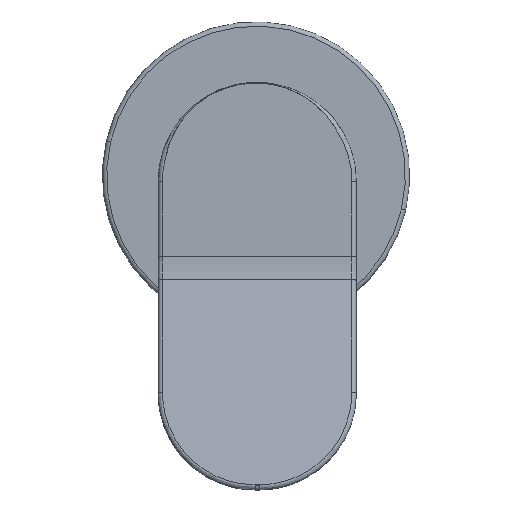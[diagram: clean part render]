
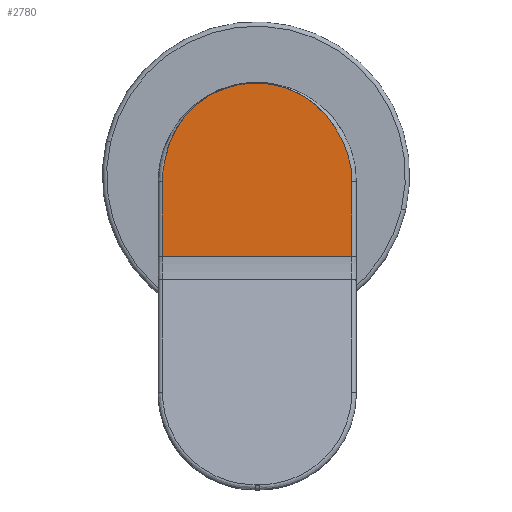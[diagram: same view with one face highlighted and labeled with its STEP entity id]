
A CAD part, top view. The second image highlights one B-rep face of the part: STEP entity #2780.
In plain terms, the highlighted planar face has unit normal (0, 0, 1).
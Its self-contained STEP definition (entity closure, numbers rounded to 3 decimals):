
#28 = VERTEX_POINT ( 'NONE', #1815 ) ;
#188 = ORIENTED_EDGE ( 'NONE', *, *, #4149, .F. ) ;
#290 = DIRECTION ( 'NONE',  ( -1., 0., 0. ) ) ;
#366 = EDGE_LOOP ( 'NONE', ( #188, #372, #3940, #659, #1661, #523, #2286 ) ) ;
#372 = ORIENTED_EDGE ( 'NONE', *, *, #2707, .F. ) ;
#413 = AXIS2_PLACEMENT_3D ( 'NONE', #451, #3560, #771 ) ;
#415 = EDGE_CURVE ( 'NONE', #3729, #28, #2094, .T. ) ;
#451 = CARTESIAN_POINT ( 'NONE',  ( 0.275, -1.445, 85.997 ) ) ;
#523 = ORIENTED_EDGE ( 'NONE', *, *, #2887, .F. ) ;
#550 = VERTEX_POINT ( 'NONE', #3357 ) ;
#622 = VECTOR ( 'NONE', #290, 1000. ) ;
#637 = CARTESIAN_POINT ( 'NONE',  ( 21.775, -1.445, 85.997 ) ) ;
#659 = ORIENTED_EDGE ( 'NONE', *, *, #993, .F. ) ;
#722 = DIRECTION ( 'NONE',  ( 0., 1., 0. ) ) ;
#771 = DIRECTION ( 'NONE',  ( 1., 0., 0. ) ) ;
#931 = CARTESIAN_POINT ( 'NONE',  ( -20.673, 3.396, 85.997 ) ) ;
#955 =( BOUNDED_CURVE ( )  B_SPLINE_CURVE ( 3, ( #1611, #2976, #1636, #931 ),
 .UNSPECIFIED., .F., .T. ) 
 B_SPLINE_CURVE_WITH_KNOTS ( ( 4, 4 ),
 ( 0., 0.072 ),
 .UNSPECIFIED. ) 
 CURVE ( )  GEOMETRIC_REPRESENTATION_ITEM ( )  RATIONAL_B_SPLINE_CURVE ( ( 1., 0.996, 0.996, 1. ) ) 
 REPRESENTATION_ITEM ( '' )  );
#993 = EDGE_CURVE ( 'NONE', #2832, #1434, #1444, .T. ) ;
#1206 = CARTESIAN_POINT ( 'NONE',  ( 21.775, -1.445, 85.997 ) ) ;
#1211 = EDGE_CURVE ( 'NONE', #1434, #550, #955, .T. ) ;
#1274 = CARTESIAN_POINT ( 'NONE',  ( 17.98, 10.752, 85.997 ) ) ;
#1431 = PLANE ( 'NONE',  #413 ) ;
#1434 = VERTEX_POINT ( 'NONE', #2039 ) ;
#1444 = LINE ( 'NONE', #3452, #4043 ) ;
#1497 = CARTESIAN_POINT ( 'NONE',  ( -20.673, 3.398, 85.997 ) ) ;
#1611 = CARTESIAN_POINT ( 'NONE',  ( -21.225, -1.445, 85.997 ) ) ;
#1627 = CARTESIAN_POINT ( 'NONE',  ( 0., 0., 85.997 ) ) ;
#1636 = CARTESIAN_POINT ( 'NONE',  ( -21.04, 1.807, 85.997 ) ) ;
#1661 = ORIENTED_EDGE ( 'NONE', *, *, #2087, .F. ) ;
#1747 = CARTESIAN_POINT ( 'NONE',  ( -20.673, 3.396, 85.997 ) ) ;
#1815 = CARTESIAN_POINT ( 'NONE',  ( 21.775, -1.445, 85.997 ) ) ;
#1872 = CARTESIAN_POINT ( 'NONE',  ( -21.225, -18.413, 85.997 ) ) ;
#1948 = CARTESIAN_POINT ( 'NONE',  ( 17.98, 10.752, 85.997 ) ) ;
#2039 = CARTESIAN_POINT ( 'NONE',  ( -21.225, -1.445, 85.997 ) ) ;
#2087 = EDGE_CURVE ( 'NONE', #3358, #2832, #4021, .T. ) ;
#2094 =( BOUNDED_CURVE ( )  B_SPLINE_CURVE ( 3, ( #1274, #4231, #4206, #1206 ),
 .UNSPECIFIED., .F., .T. ) 
 B_SPLINE_CURVE_WITH_KNOTS ( ( 4, 4 ),
 ( 0.808, 1. ),
 .UNSPECIFIED. ) 
 CURVE ( )  GEOMETRIC_REPRESENTATION_ITEM ( )  RATIONAL_B_SPLINE_CURVE ( ( 1., 0.97, 0.97, 1. ) ) 
 REPRESENTATION_ITEM ( '' )  );
#2142 = FACE_OUTER_BOUND ( 'NONE', #366, .T. ) ;
#2286 = ORIENTED_EDGE ( 'NONE', *, *, #415, .F. ) ;
#2360 = DIRECTION ( 'NONE',  ( 0., -1., 0. ) ) ;
#2385 = CIRCLE ( 'NONE', #2966, 20.95 ) ;
#2434 = CARTESIAN_POINT ( 'NONE',  ( 21.775, -18.413, 85.997 ) ) ;
#2465 = CARTESIAN_POINT ( 'NONE',  ( -20.673, 3.398, 85.997 ) ) ;
#2707 = EDGE_CURVE ( 'NONE', #550, #3194, #3541, .T. ) ;
#2780 = ADVANCED_FACE ( 'NONE', ( #2142 ), #1431, .F. ) ;
#2832 = VERTEX_POINT ( 'NONE', #1872 ) ;
#2887 = EDGE_CURVE ( 'NONE', #28, #3358, #4219, .T. ) ;
#2966 = AXIS2_PLACEMENT_3D ( 'NONE', #1627, #4026, #3638 ) ;
#2976 = CARTESIAN_POINT ( 'NONE',  ( -21.225, 0.186, 85.997 ) ) ;
#3043 = VECTOR ( 'NONE', #2360, 1000. ) ;
#3194 = VERTEX_POINT ( 'NONE', #2465 ) ;
#3357 = CARTESIAN_POINT ( 'NONE',  ( -20.673, 3.396, 85.997 ) ) ;
#3358 = VERTEX_POINT ( 'NONE', #2434 ) ;
#3438 = CARTESIAN_POINT ( 'NONE',  ( -20.673, 3.396, 85.997 ) ) ;
#3452 = CARTESIAN_POINT ( 'NONE',  ( -21.225, -1.445, 85.997 ) ) ;
#3541 =( BOUNDED_CURVE ( )  B_SPLINE_CURVE ( 3, ( #3438, #1747, #4117, #1497 ),
 .UNSPECIFIED., .F., .T. ) 
 B_SPLINE_CURVE_WITH_KNOTS ( ( 4, 4 ),
 ( 0.072, 0.072 ),
 .UNSPECIFIED. ) 
 CURVE ( )  GEOMETRIC_REPRESENTATION_ITEM ( )  RATIONAL_B_SPLINE_CURVE ( ( 1., 1., 1., 1. ) ) 
 REPRESENTATION_ITEM ( '' )  );
#3560 = DIRECTION ( 'NONE',  ( 0., 0., -1. ) ) ;
#3638 = DIRECTION ( 'NONE',  ( 0., 1., 0. ) ) ;
#3729 = VERTEX_POINT ( 'NONE', #1948 ) ;
#3940 = ORIENTED_EDGE ( 'NONE', *, *, #1211, .F. ) ;
#4021 = LINE ( 'NONE', #4044, #622 ) ;
#4026 = DIRECTION ( 'NONE',  ( 0., 0., -1. ) ) ;
#4043 = VECTOR ( 'NONE', #722, 1000. ) ;
#4044 = CARTESIAN_POINT ( 'NONE',  ( 0.275, -18.413, 85.997 ) ) ;
#4117 = CARTESIAN_POINT ( 'NONE',  ( -20.673, 3.397, 85.997 ) ) ;
#4149 = EDGE_CURVE ( 'NONE', #3194, #3729, #2385, .T. ) ;
#4206 = CARTESIAN_POINT ( 'NONE',  ( 21.775, 2.945, 85.997 ) ) ;
#4219 = LINE ( 'NONE', #637, #3043 ) ;
#4231 = CARTESIAN_POINT ( 'NONE',  ( 20.471, 7.137, 85.997 ) ) ;
